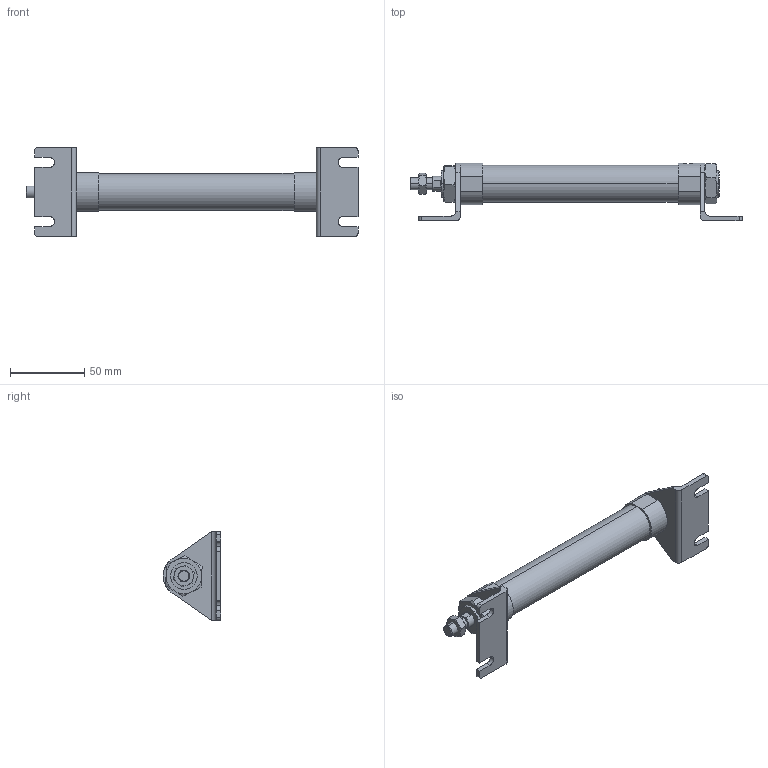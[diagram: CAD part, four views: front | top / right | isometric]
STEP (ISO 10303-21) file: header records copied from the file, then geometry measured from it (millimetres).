
FILE_DESCRIPTION (( 'STEP AP203' ), '1' );
FILE_NAME ('J#1-20-50-L.STEP', '2016-03-10T00:45:38', ( '' ), ( '' ), 'SwSTEP 2.0', 'SolidWorks 2014', '' );
FILE_SCHEMA (( 'CONFIG_CONTROL_DESIGN' ));
Length unit declared in the file: millimetre
Products named in the file (5): J#2-20-L; J#1-20-50-L; J#1-20-50
Assembly tree (6 placements, depth 2):
  J#1-20-50-L
    J#1-20-50
    (unnamed)
    (unnamed)  x2
    J#2-20-L  x2
Bounding box: 224.2 x 39 x 60 mm (x, y, z)
Volume: 111831.1 mm3; surface area: 32778.1 mm2
Topology: 6 solids, 6 shells, 165 faces, 386 edges, 242 vertices
Faces by surface type: plane 73, cylinder 50, torus 36, cone 6
Entity records: 4138 total; most frequent: CARTESIAN_POINT 946, DIRECTION 565, ORIENTED_EDGE 530, EDGE_CURVE 265, AXIS2_PLACEMENT_3D 229, VERTEX_POINT 166, EDGE_LOOP 131, FACE_OUTER_BOUND 116
